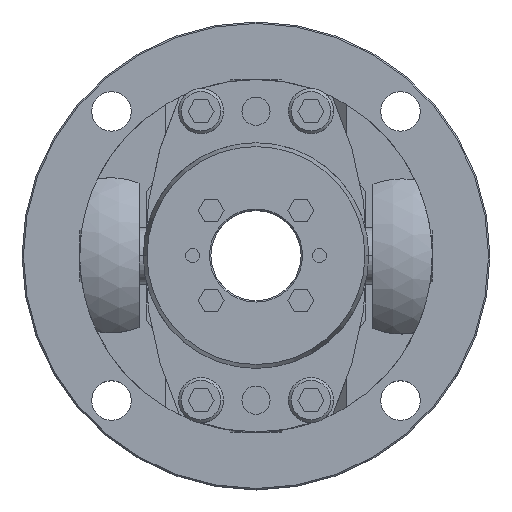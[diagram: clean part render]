
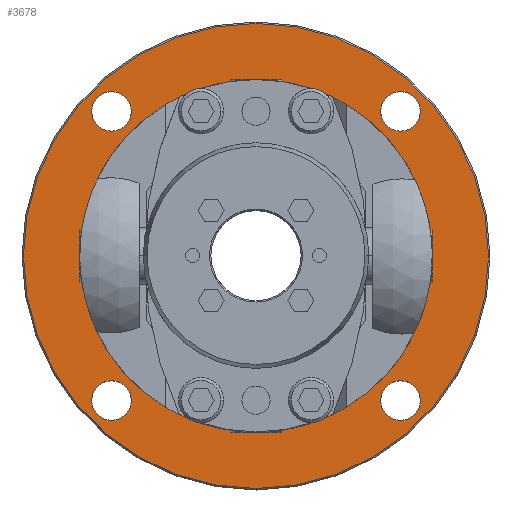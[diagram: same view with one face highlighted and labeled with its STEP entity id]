
A CAD part, top view. The second image highlights one B-rep face of the part: STEP entity #3678.
In plain terms, the highlighted planar face has unit normal (0, 0, 1).
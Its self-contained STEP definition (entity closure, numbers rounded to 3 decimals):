
#1070=CARTESIAN_POINT('',(0.,62.5,-25.0));
#1071=VERTEX_POINT('',#1070);
#1189=CARTESIAN_POINT('',(0.,-62.5,-25.0));
#1190=VERTEX_POINT('',#1189);
#1197=CARTESIAN_POINT('',(0.,0.,-25.0));
#1198=DIRECTION('',(0.0,0.0,-1.0));
#1199=DIRECTION('',(0.0,-1.0,0.0));
#1200=AXIS2_PLACEMENT_3D('',#1197,#1198,#1199);
#1201=CIRCLE('',#1200,62.5);
#1202=EDGE_CURVE('',#1071,#1190,#1201,.T.);
#2282=CARTESIAN_POINT('',(51.265,44.265,-25.0));
#2283=VERTEX_POINT('',#2282);
#2292=CARTESIAN_POINT('',(51.265,58.265,-25.0));
#2293=VERTEX_POINT('',#2292);
#2294=CARTESIAN_POINT('',(51.265,51.265,-25.0));
#2295=DIRECTION('',(0.0,0.0,-1.0));
#2296=DIRECTION('',(0.0,-1.0,0.0));
#2297=AXIS2_PLACEMENT_3D('',#2294,#2295,#2296);
#2298=CIRCLE('',#2297,7.0);
#2299=EDGE_CURVE('',#2293,#2283,#2298,.T.);
#2324=CARTESIAN_POINT('',(51.265,-58.265,-25.0));
#2325=VERTEX_POINT('',#2324);
#2334=CARTESIAN_POINT('',(51.265,-44.265,-25.0));
#2335=VERTEX_POINT('',#2334);
#2336=CARTESIAN_POINT('',(51.265,-51.265,-25.0));
#2337=DIRECTION('',(0.0,0.0,-1.0));
#2338=DIRECTION('',(0.0,-1.0,0.0));
#2339=AXIS2_PLACEMENT_3D('',#2336,#2337,#2338);
#2340=CIRCLE('',#2339,7.0);
#2341=EDGE_CURVE('',#2335,#2325,#2340,.T.);
#2366=CARTESIAN_POINT('',(-51.265,-58.265,-25.0));
#2367=VERTEX_POINT('',#2366);
#2376=CARTESIAN_POINT('',(-51.265,-44.265,-25.0));
#2377=VERTEX_POINT('',#2376);
#2378=CARTESIAN_POINT('',(-51.265,-51.265,-25.0));
#2379=DIRECTION('',(0.0,0.0,-1.0));
#2380=DIRECTION('',(0.0,-1.0,0.0));
#2381=AXIS2_PLACEMENT_3D('',#2378,#2379,#2380);
#2382=CIRCLE('',#2381,7.0);
#2383=EDGE_CURVE('',#2377,#2367,#2382,.T.);
#2408=CARTESIAN_POINT('',(-51.265,44.265,-25.0));
#2409=VERTEX_POINT('',#2408);
#2418=CARTESIAN_POINT('',(-51.265,58.265,-25.0));
#2419=VERTEX_POINT('',#2418);
#2420=CARTESIAN_POINT('',(-51.265,51.265,-25.0));
#2421=DIRECTION('',(0.0,0.0,-1.0));
#2422=DIRECTION('',(0.0,-1.0,0.0));
#2423=AXIS2_PLACEMENT_3D('',#2420,#2421,#2422);
#2424=CIRCLE('',#2423,7.0);
#2425=EDGE_CURVE('',#2419,#2409,#2424,.T.);
#2994=CARTESIAN_POINT('',(0.,82.5,-25.0));
#2995=VERTEX_POINT('',#2994);
#3002=CARTESIAN_POINT('',(0.,-82.5,-25.0));
#3003=VERTEX_POINT('',#3002);
#3004=CARTESIAN_POINT('',(0.,0.,-25.0));
#3005=DIRECTION('',(0.0,0.0,-1.0));
#3006=DIRECTION('',(0.0,1.0,0.0));
#3007=AXIS2_PLACEMENT_3D('',#3004,#3005,#3006);
#3008=CIRCLE('',#3007,82.5);
#3009=EDGE_CURVE('',#2995,#3003,#3008,.T.);
#3597=CARTESIAN_POINT('',(0.,0.,-25.0));
#3598=DIRECTION('',(0.0,0.0,-1.0));
#3599=DIRECTION('',(0.0,1.0,0.0));
#3600=AXIS2_PLACEMENT_3D('',#3597,#3598,#3599);
#3601=CIRCLE('',#3600,82.5);
#3602=EDGE_CURVE('',#3003,#2995,#3601,.T.);
#3619=CARTESIAN_POINT('',(0.,-7.545,-25.0));
#3620=DIRECTION('',(0.0,0.0,1.0));
#3621=DIRECTION('',(0.0,-1.0,0.0));
#3622=AXIS2_PLACEMENT_3D('',#3619,#3620,#3621);
#3623=PLANE('',#3622);
#3624=ORIENTED_EDGE('',*,*,#3602,.F.);
#3625=ORIENTED_EDGE('',*,*,#3009,.F.);
#3626=EDGE_LOOP('',(#3624,#3625));
#3627=FACE_OUTER_BOUND('',#3626,.T.);
#3628=ORIENTED_EDGE('',*,*,#1202,.T.);
#3629=CARTESIAN_POINT('',(0.,0.,-25.0));
#3630=DIRECTION('',(0.0,0.0,-1.0));
#3631=DIRECTION('',(0.0,-1.0,0.0));
#3632=AXIS2_PLACEMENT_3D('',#3629,#3630,#3631);
#3633=CIRCLE('',#3632,62.5);
#3634=EDGE_CURVE('',#1190,#1071,#3633,.T.);
#3635=ORIENTED_EDGE('',*,*,#3634,.T.);
#3636=EDGE_LOOP('',(#3628,#3635));
#3637=FACE_BOUND('',#3636,.T.);
#3638=ORIENTED_EDGE('',*,*,#2299,.T.);
#3639=CARTESIAN_POINT('',(51.265,51.265,-25.0));
#3640=DIRECTION('',(0.0,0.0,-1.0));
#3641=DIRECTION('',(0.0,-1.0,0.0));
#3642=AXIS2_PLACEMENT_3D('',#3639,#3640,#3641);
#3643=CIRCLE('',#3642,7.0);
#3644=EDGE_CURVE('',#2283,#2293,#3643,.T.);
#3645=ORIENTED_EDGE('',*,*,#3644,.T.);
#3646=EDGE_LOOP('',(#3638,#3645));
#3647=FACE_BOUND('',#3646,.T.);
#3648=ORIENTED_EDGE('',*,*,#2341,.T.);
#3649=CARTESIAN_POINT('',(51.265,-51.265,-25.0));
#3650=DIRECTION('',(0.0,0.0,-1.0));
#3651=DIRECTION('',(0.0,-1.0,0.0));
#3652=AXIS2_PLACEMENT_3D('',#3649,#3650,#3651);
#3653=CIRCLE('',#3652,7.0);
#3654=EDGE_CURVE('',#2325,#2335,#3653,.T.);
#3655=ORIENTED_EDGE('',*,*,#3654,.T.);
#3656=EDGE_LOOP('',(#3648,#3655));
#3657=FACE_BOUND('',#3656,.T.);
#3658=ORIENTED_EDGE('',*,*,#2383,.T.);
#3659=CARTESIAN_POINT('',(-51.265,-51.265,-25.0));
#3660=DIRECTION('',(0.0,0.0,-1.0));
#3661=DIRECTION('',(0.0,-1.0,0.0));
#3662=AXIS2_PLACEMENT_3D('',#3659,#3660,#3661);
#3663=CIRCLE('',#3662,7.0);
#3664=EDGE_CURVE('',#2367,#2377,#3663,.T.);
#3665=ORIENTED_EDGE('',*,*,#3664,.T.);
#3666=EDGE_LOOP('',(#3658,#3665));
#3667=FACE_BOUND('',#3666,.T.);
#3668=ORIENTED_EDGE('',*,*,#2425,.T.);
#3669=CARTESIAN_POINT('',(-51.265,51.265,-25.0));
#3670=DIRECTION('',(0.0,0.0,-1.0));
#3671=DIRECTION('',(0.0,-1.0,0.0));
#3672=AXIS2_PLACEMENT_3D('',#3669,#3670,#3671);
#3673=CIRCLE('',#3672,7.0);
#3674=EDGE_CURVE('',#2409,#2419,#3673,.T.);
#3675=ORIENTED_EDGE('',*,*,#3674,.T.);
#3676=EDGE_LOOP('',(#3668,#3675));
#3677=FACE_BOUND('',#3676,.T.);
#3678=ADVANCED_FACE('',(#3627,#3637,#3647,#3657,#3667,#3677),#3623,.T.);
